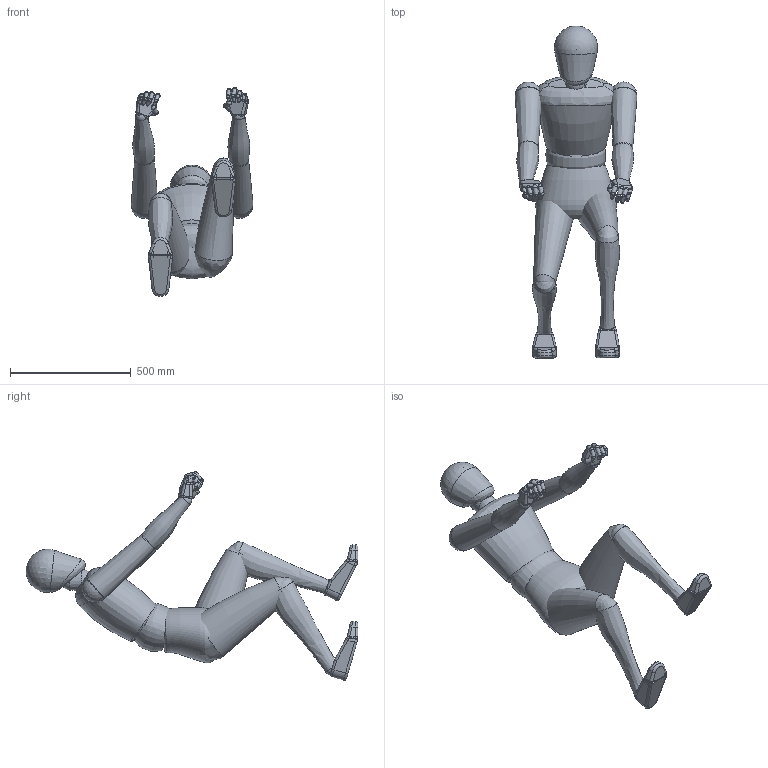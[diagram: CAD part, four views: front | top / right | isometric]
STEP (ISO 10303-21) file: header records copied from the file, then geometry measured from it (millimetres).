
FILE_DESCRIPTION(/* description */ (''),/* implementation_level */ '2;1');
FILE_NAME(/* name */ 'C:\Users\D\Documents\Inventor\各種小物\デッサン人形\170\投稿用\6-自転車\ragdoll-6-stp.stp',/* time_stamp */ '2022-04-13T17:10:59+09:00',/* author */ ('D'),/* organization */ (''),/* preprocessor_version */ 'ST-DEVELOPER v18',/* originating_system */ 'Autodesk Inventor 2020',/* authorisation */ '');
FILE_SCHEMA (('AUTOMOTIVE_DESIGN { 1 0 10303 214 3 1 1 }'));
Length unit declared in the file: millimetre
Products named in the file (29): 170; Part3; Part2; Part1; Part1_1; Part2_1; Part3_1; Part3_2; Part5; Part6; Part4; Head; 握る_L; 握る_R; Part1_2; Part1_3; Part1_4; Part1_5; Part1_6; Part1_7; Part1_8; Part1_9; Part1_10; Part1_11; Part1_12; Part1_13; Part1_14; Part1_15; Part1_16
Assembly tree (49 placements, depth 3):
  170
    Part3
    Part2
    Part1
    Part1_1  x2
    Part2_1  x2
    Part3_1  x2
    Part3_2  x2
    Part5  x2
    Part6  x2
    Part4
    Head
    握る_L
      Part1_2
      Part1_3
      Part1_4
      Part1_5
      Part1_6
      Part1_7
      Part1_8
      Part1_9
      Part1_10
      Part1_11
      Part1_12
      Part1_13
      Part1_14
      Part1_15
      Part1_16
    握る_R
      Part1_2
      Part1_3
      Part1_4
      Part1_5
      Part1_6
      Part1_7
      Part1_8
      Part1_9
      Part1_10
      Part1_11
      Part1_12
      Part1_13
      Part1_14
      Part1_15
      Part1_16
Bounding box: 504.88 x 1376.72 x 866.38 mm (x, y, z)
Volume: 67439779.8 mm3; surface area: 2314391.1 mm2
Topology: 47 solids, 47 shells, 330 faces, 898 edges, 538 vertices
Faces by surface type: sphere 115, cylinder 75, plane 59, bspline 38, cone 29, torus 14
Full cylindrical faces by diameter (mm): 20 x2
Entity records: 11119 total; most frequent: CARTESIAN_POINT 5807, DIRECTION 1009, ORIENTED_EDGE 806, AXIS2_PLACEMENT_3D 454, EDGE_CURVE 403, VERTEX_POINT 300, EDGE_LOOP 213, CIRCLE 197
